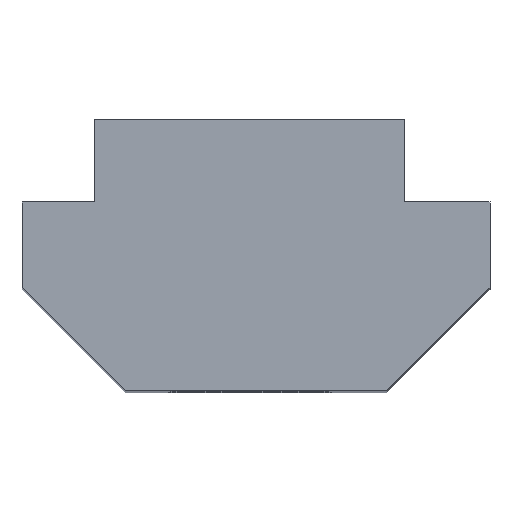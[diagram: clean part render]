
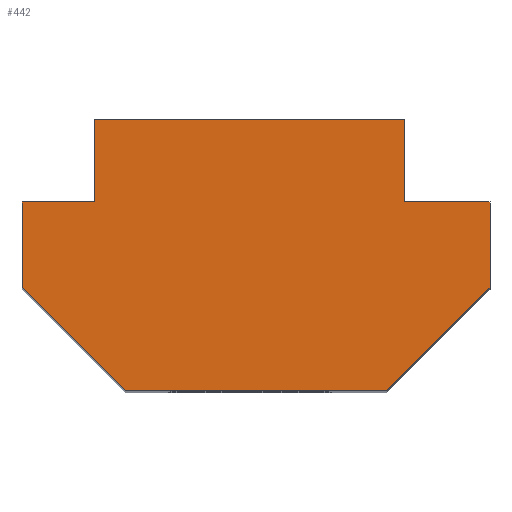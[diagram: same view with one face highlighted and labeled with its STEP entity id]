
A CAD part, top view. The second image highlights one B-rep face of the part: STEP entity #442.
In plain terms, the highlighted planar face has unit normal (0, 0, 1).
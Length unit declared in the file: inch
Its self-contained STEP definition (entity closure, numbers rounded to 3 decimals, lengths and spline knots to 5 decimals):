
#45=DIRECTION('',(-1.,0.,0.));
#46=VECTOR('',#45,0.316);
#47=CARTESIAN_POINT('',(0.1654,-0.228,0.75));
#48=LINE('',#47,#46);
#77=DIRECTION('',(0.,1.,0.));
#78=VECTOR('',#77,0.103);
#79=CARTESIAN_POINT('',(-0.2756,-0.103,0.75));
#80=LINE('',#79,#78);
#85=DIRECTION('',(1.,0.,0.));
#86=VECTOR('',#85,0.0881);
#87=CARTESIAN_POINT('',(-0.2756,0.,0.75));
#88=LINE('',#87,#86);
#93=DIRECTION('',(0.,1.,0.));
#94=VECTOR('',#93,0.1);
#95=CARTESIAN_POINT('',(-0.1875,0.,0.75));
#96=LINE('',#95,#94);
#101=DIRECTION('',(1.,0.,0.));
#102=VECTOR('',#101,0.375);
#103=CARTESIAN_POINT('',(-0.1875,0.1,0.75));
#104=LINE('',#103,#102);
#129=DIRECTION('',(0.,-1.,0.));
#130=VECTOR('',#129,0.1);
#131=CARTESIAN_POINT('',(0.1875,0.1,0.75));
#132=LINE('',#131,#130);
#137=DIRECTION('',(1.,0.,0.));
#138=VECTOR('',#137,0.1029);
#139=CARTESIAN_POINT('',(0.1875,0.,0.75));
#140=LINE('',#139,#138);
#145=DIRECTION('',(0.,-1.,0.));
#146=VECTOR('',#145,0.103);
#147=CARTESIAN_POINT('',(0.2904,0.,0.75));
#148=LINE('',#147,#146);
#153=DIRECTION('',(0.707,0.707,0.));
#154=VECTOR('',#153,0.17678);
#155=CARTESIAN_POINT('',(0.1654,-0.228,0.75));
#156=LINE('',#155,#154);
#157=DIRECTION('',(0.707,-0.707,0.));
#158=VECTOR('',#157,0.17678);
#159=CARTESIAN_POINT('',(-0.2756,-0.103,0.75));
#160=LINE('',#159,#158);
#177=CARTESIAN_POINT('',(0.1875,0.1,0.75));
#178=CARTESIAN_POINT('',(0.1875,0.,0.75));
#179=VERTEX_POINT('',#177);
#180=VERTEX_POINT('',#178);
#182=CARTESIAN_POINT('',(-0.1875,0.,0.75));
#184=VERTEX_POINT('',#182);
#198=CARTESIAN_POINT('',(0.2904,0.,0.75));
#200=VERTEX_POINT('',#198);
#205=CARTESIAN_POINT('',(0.1654,-0.228,0.75));
#206=CARTESIAN_POINT('',(0.2904,-0.103,0.75));
#207=VERTEX_POINT('',#205);
#208=VERTEX_POINT('',#206);
#209=CARTESIAN_POINT('',(-0.1875,0.1,0.75));
#210=VERTEX_POINT('',#209);
#214=CARTESIAN_POINT('',(-0.2756,0.,0.75));
#216=VERTEX_POINT('',#214);
#227=CARTESIAN_POINT('',(-0.2756,-0.103,0.75));
#228=VERTEX_POINT('',#227);
#229=CARTESIAN_POINT('',(-0.1506,-0.228,0.75));
#230=VERTEX_POINT('',#229);
#425=CARTESIAN_POINT('',(0.,0.,0.75));
#426=DIRECTION('',(0.,0.,1.));
#427=DIRECTION('',(1.,0.,0.));
#428=AXIS2_PLACEMENT_3D('',#425,#426,#427);
#429=PLANE('',#428);
#430=ORIENTED_EDGE('',*,*,#269,.F.);
#431=ORIENTED_EDGE('',*,*,#284,.T.);
#432=ORIENTED_EDGE('',*,*,#310,.F.);
#433=ORIENTED_EDGE('',*,*,#324,.T.);
#434=ORIENTED_EDGE('',*,*,#338,.T.);
#435=ORIENTED_EDGE('',*,*,#352,.T.);
#436=ORIENTED_EDGE('',*,*,#366,.T.);
#437=ORIENTED_EDGE('',*,*,#392,.T.);
#438=ORIENTED_EDGE('',*,*,#406,.T.);
#439=ORIENTED_EDGE('',*,*,#419,.T.);
#440=EDGE_LOOP('',(#430,#431,#432,#433,#434,#435,#436,#437,#438,#439));
#441=FACE_OUTER_BOUND('',#440,.F.);
#269=EDGE_CURVE('',#207,#208,#156,.T.);
#284=EDGE_CURVE('',#207,#230,#48,.T.);
#310=EDGE_CURVE('',#228,#230,#160,.T.);
#324=EDGE_CURVE('',#228,#216,#80,.T.);
#338=EDGE_CURVE('',#216,#184,#88,.T.);
#352=EDGE_CURVE('',#184,#210,#96,.T.);
#366=EDGE_CURVE('',#210,#179,#104,.T.);
#392=EDGE_CURVE('',#179,#180,#132,.T.);
#406=EDGE_CURVE('',#180,#200,#140,.T.);
#419=EDGE_CURVE('',#200,#208,#148,.T.);
#442=ADVANCED_FACE('',(#441),#429,.T.);
